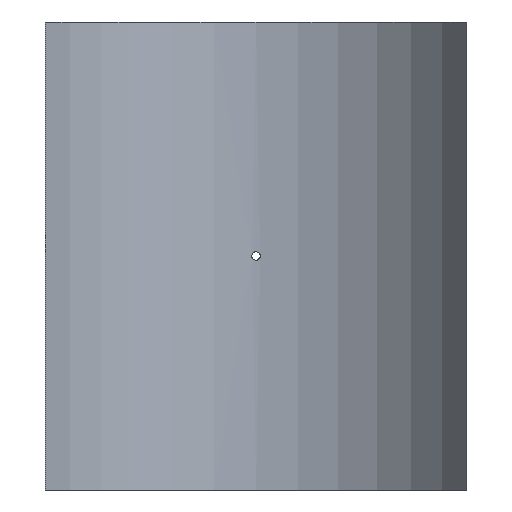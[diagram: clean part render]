
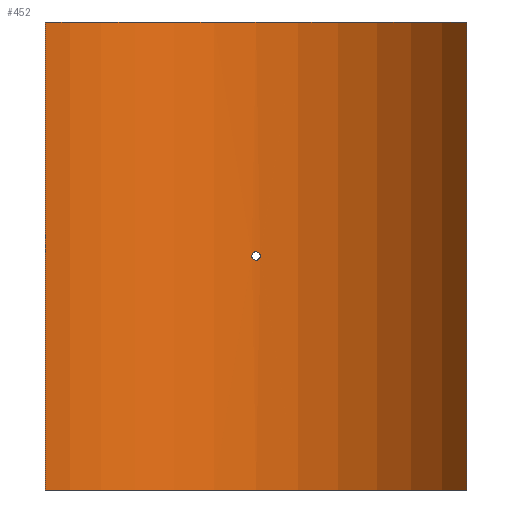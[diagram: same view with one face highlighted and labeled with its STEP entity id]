
A CAD part, front view. The second image highlights one B-rep face of the part: STEP entity #452.
In plain terms, the highlighted cylindrical face has radius 280 mm (diameter 560 mm), a partial arc.
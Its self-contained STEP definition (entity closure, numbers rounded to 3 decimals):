
#19=B_SPLINE_CURVE_WITH_KNOTS('',3,(#788,#789,#790,#791,#792,#793,#794,
#795,#796,#797,#798,#799,#800,#801,#802,#803,#804,#805,#806,#807,#808,#809,
#810,#811,#812,#813,#814,#815,#816,#817,#818,#819,#820,#821),
 .UNSPECIFIED.,.T.,.F.,(4,2,2,2,2,2,2,2,2,2,2,2,2,2,2,2,4),(0.,0.181,
0.362,0.542,0.723,0.904,
1.085,1.266,1.447,1.627,1.808,
1.989,2.17,2.351,2.531,2.712,
2.893),.UNSPECIFIED.);
#43=LINE('',#1073,#62);
#44=LINE('',#1076,#63);
#62=VECTOR('',#661,10.);
#63=VECTOR('',#664,10.);
#76=CYLINDRICAL_SURFACE('',#530,280.);
#88=FACE_BOUND('',#167,.T.);
#127=FACE_OUTER_BOUND('',#166,.T.);
#166=EDGE_LOOP('',(#405,#406,#407,#408));
#167=EDGE_LOOP('',(#409));
#201=CIRCLE('',#529,280.);
#202=CIRCLE('',#531,280.);
#219=VERTEX_POINT('',#786);
#242=VERTEX_POINT('',#1066);
#243=VERTEX_POINT('',#1068);
#244=VERTEX_POINT('',#1072);
#245=VERTEX_POINT('',#1074);
#267=EDGE_CURVE('',#219,#219,#19,.T.);
#299=EDGE_CURVE('',#242,#243,#201,.T.);
#301=EDGE_CURVE('',#244,#242,#43,.T.);
#302=EDGE_CURVE('',#245,#244,#202,.T.);
#303=EDGE_CURVE('',#245,#243,#44,.T.);
#405=ORIENTED_EDGE('',*,*,#301,.F.);
#406=ORIENTED_EDGE('',*,*,#302,.F.);
#407=ORIENTED_EDGE('',*,*,#303,.T.);
#408=ORIENTED_EDGE('',*,*,#299,.F.);
#409=ORIENTED_EDGE('',*,*,#267,.T.);
#452=ADVANCED_FACE('',(#127,#88),#76,.F.);
#529=AXIS2_PLACEMENT_3D('',#1069,#656,#657);
#530=AXIS2_PLACEMENT_3D('',#1071,#659,#660);
#531=AXIS2_PLACEMENT_3D('',#1075,#662,#663);
#656=DIRECTION('center_axis',(0.,0.,1.));
#657=DIRECTION('ref_axis',(0.852,0.524,0.));
#659=DIRECTION('center_axis',(0.,0.,1.));
#660=DIRECTION('ref_axis',(0.852,0.524,0.));
#661=DIRECTION('',(0.,0.,-1.));
#662=DIRECTION('center_axis',(0.,0.,-1.));
#663=DIRECTION('ref_axis',(0.852,0.524,0.));
#664=DIRECTION('',(0.,0.,-1.));
#786=CARTESIAN_POINT('',(4.8,279.959,0.));
#788=CARTESIAN_POINT('Ctrl Pts',(4.8,279.959,0.));
#789=CARTESIAN_POINT('Ctrl Pts',(4.8,279.959,-0.603));
#790=CARTESIAN_POINT('Ctrl Pts',(4.68,279.961,-1.246));
#791=CARTESIAN_POINT('Ctrl Pts',(4.19,279.969,-2.428));
#792=CARTESIAN_POINT('Ctrl Pts',(3.82,279.974,-2.968));
#793=CARTESIAN_POINT('Ctrl Pts',(2.968,279.985,-3.82));
#794=CARTESIAN_POINT('Ctrl Pts',(2.428,279.99,-4.19));
#795=CARTESIAN_POINT('Ctrl Pts',(1.246,279.998,-4.68));
#796=CARTESIAN_POINT('Ctrl Pts',(0.603,280.,-4.8));
#797=CARTESIAN_POINT('Ctrl Pts',(-0.603,280.,-4.8));
#798=CARTESIAN_POINT('Ctrl Pts',(-1.246,279.998,-4.68));
#799=CARTESIAN_POINT('Ctrl Pts',(-2.428,279.99,-4.19));
#800=CARTESIAN_POINT('Ctrl Pts',(-2.968,279.985,-3.82));
#801=CARTESIAN_POINT('Ctrl Pts',(-3.82,279.974,-2.968));
#802=CARTESIAN_POINT('Ctrl Pts',(-4.19,279.969,-2.428));
#803=CARTESIAN_POINT('Ctrl Pts',(-4.68,279.961,-1.246));
#804=CARTESIAN_POINT('Ctrl Pts',(-4.8,279.959,-0.603));
#805=CARTESIAN_POINT('Ctrl Pts',(-4.8,279.959,0.603));
#806=CARTESIAN_POINT('Ctrl Pts',(-4.68,279.961,1.246));
#807=CARTESIAN_POINT('Ctrl Pts',(-4.19,279.969,2.428));
#808=CARTESIAN_POINT('Ctrl Pts',(-3.82,279.974,2.968));
#809=CARTESIAN_POINT('Ctrl Pts',(-2.968,279.985,3.82));
#810=CARTESIAN_POINT('Ctrl Pts',(-2.428,279.99,4.19));
#811=CARTESIAN_POINT('Ctrl Pts',(-1.246,279.998,4.68));
#812=CARTESIAN_POINT('Ctrl Pts',(-0.603,280.,4.8));
#813=CARTESIAN_POINT('Ctrl Pts',(0.603,280.,4.8));
#814=CARTESIAN_POINT('Ctrl Pts',(1.246,279.998,4.68));
#815=CARTESIAN_POINT('Ctrl Pts',(2.428,279.99,4.19));
#816=CARTESIAN_POINT('Ctrl Pts',(2.968,279.985,3.82));
#817=CARTESIAN_POINT('Ctrl Pts',(3.82,279.974,2.968));
#818=CARTESIAN_POINT('Ctrl Pts',(4.19,279.969,2.428));
#819=CARTESIAN_POINT('Ctrl Pts',(4.68,279.961,1.246));
#820=CARTESIAN_POINT('Ctrl Pts',(4.8,279.959,0.603));
#821=CARTESIAN_POINT('Ctrl Pts',(4.8,279.959,0.));
#1066=CARTESIAN_POINT('',(238.5,146.689,-265.));
#1068=CARTESIAN_POINT('',(-238.5,146.689,-265.));
#1069=CARTESIAN_POINT('Origin',(0.,0.,
-265.));
#1071=CARTESIAN_POINT('Origin',(0.,0.,
0.));
#1072=CARTESIAN_POINT('',(238.5,146.689,265.));
#1073=CARTESIAN_POINT('',(238.5,146.689,0.));
#1074=CARTESIAN_POINT('',(-238.5,146.689,265.));
#1075=CARTESIAN_POINT('Origin',(0.,0.,
265.));
#1076=CARTESIAN_POINT('',(-238.5,146.689,0.));
